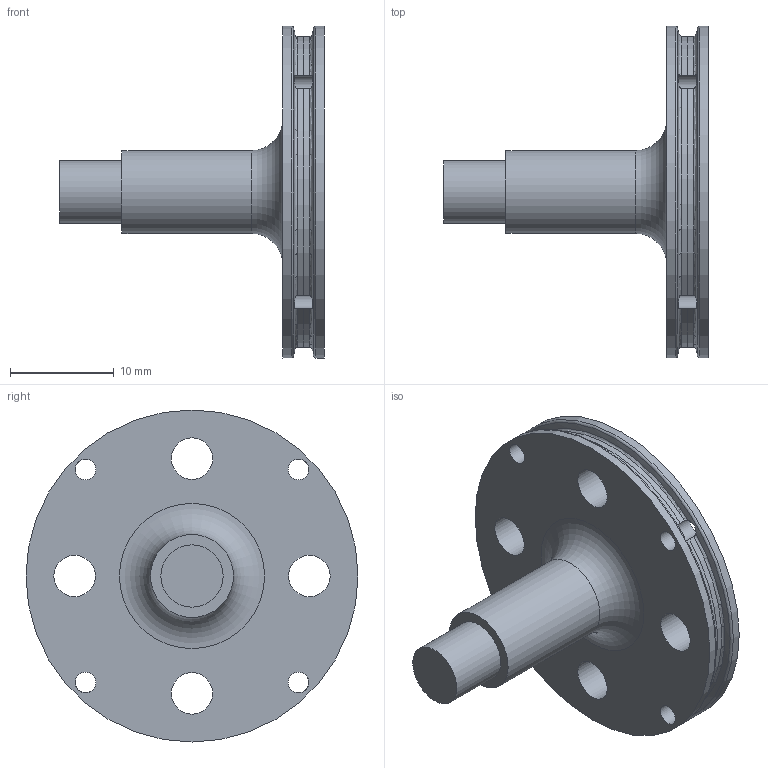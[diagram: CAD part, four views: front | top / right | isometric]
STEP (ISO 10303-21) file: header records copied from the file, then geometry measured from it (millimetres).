
FILE_DESCRIPTION( ('This file contains a STEP AP42 implementation' ,'as created by ZW3D STEP Interface translator.') ,'2;1' );
FILE_NAME( 'Pulley3.stp' ,'24 9 3.133422', (''), ('ZWCAD Software Co.'), 'Version 1.0', 'ZW3D to STEP translator', '' );
FILE_SCHEMA(('AUTOMOTIVE_DESIGN { 1 0 10303 214 1 1 1 1 }'));
Length unit declared in the file: millimetre
Products named in the file (2): 0; Pulley3
Bounding box: 25.5 x 32 x 32 mm (x, y, z)
Volume: 3483.4 mm3; surface area: 2851.5 mm2
Topology: 1 solids, 1 shells, 42 faces, 126 edges, 84 vertices
Faces by surface type: cylinder 22, torus 12, plane 6, cone 2
Full cylindrical faces by diameter (mm): 2 x4, 3 x1, 4 x4, 6 x1, 8 x1, 14 x1, 32 x2
Entity records: 1659 total; most frequent: CARTESIAN_POINT 391, DIRECTION 252, ORIENTED_EDGE 240, EDGE_CURVE 120, AXIS2_PLACEMENT_3D 107, VERTEX_POINT 78, CIRCLE 64, EDGE_LOOP 64
